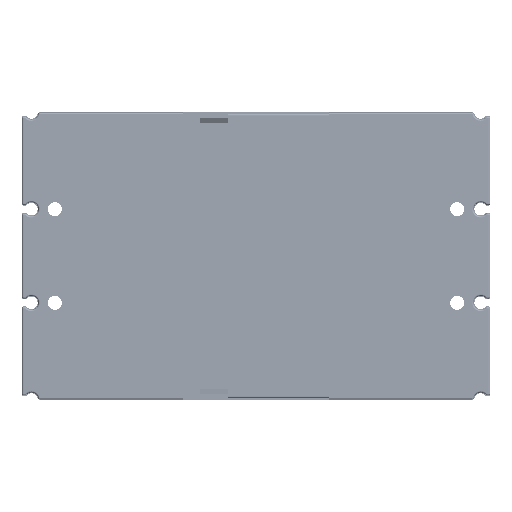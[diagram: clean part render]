
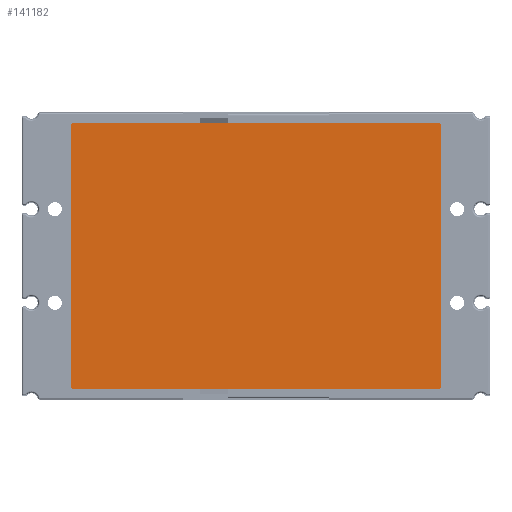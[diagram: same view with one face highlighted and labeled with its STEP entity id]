
A CAD part, front view. The second image highlights one B-rep face of the part: STEP entity #141182.
In plain terms, the highlighted planar face has unit normal (0, -1, 0) as drawn and (0, 0, 1) by its records, which use the part's own axes.
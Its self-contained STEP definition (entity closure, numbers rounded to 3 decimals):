
#140963=CARTESIAN_POINT('',(-42.,0.5,0.8));
#140964=DIRECTION('',(0.,0.,-1.));
#140965=DIRECTION('',(0.,-1.,0.));
#140966=AXIS2_PLACEMENT_3D('',#140963,#140964,#140965);
#140968=DIRECTION('',(0.,1.,0.));
#140969=VECTOR('',#140968,117.4);
#140970=CARTESIAN_POINT('',(-42.5,0.5,0.8));
#140971=LINE('',#140970,#140969);
#140972=CARTESIAN_POINT('',(-42.,117.9,0.8));
#140973=DIRECTION('',(0.,0.,-1.));
#140974=DIRECTION('',(-1.,0.,0.));
#140975=AXIS2_PLACEMENT_3D('',#140972,#140973,#140974);
#140977=DIRECTION('',(1.,0.,0.));
#140978=VECTOR('',#140977,84.);
#140979=CARTESIAN_POINT('',(-42.,118.4,0.8));
#140980=LINE('',#140979,#140978);
#140981=CARTESIAN_POINT('',(42.,117.9,0.8));
#140982=DIRECTION('',(0.,0.,-1.));
#140983=DIRECTION('',(0.,1.,0.));
#140984=AXIS2_PLACEMENT_3D('',#140981,#140982,#140983);
#140986=DIRECTION('',(0.,-1.,0.));
#140987=VECTOR('',#140986,117.4);
#140988=CARTESIAN_POINT('',(42.5,117.9,0.8));
#140989=LINE('',#140988,#140987);
#140990=CARTESIAN_POINT('',(42.,0.5,0.8));
#140991=DIRECTION('',(0.,0.,-1.));
#140992=DIRECTION('',(1.,0.,0.));
#140993=AXIS2_PLACEMENT_3D('',#140990,#140991,#140992);
#140995=DIRECTION('',(-1.,0.,0.));
#140996=VECTOR('',#140995,84.);
#140997=CARTESIAN_POINT('',(42.,0.,0.8));
#140998=LINE('',#140997,#140996);
#141015=CARTESIAN_POINT('',(-42.5,0.5,0.8));
#141016=VERTEX_POINT('',#141015);
#141017=CARTESIAN_POINT('',(-42.,0.,0.8));
#141018=VERTEX_POINT('',#141017);
#141019=CARTESIAN_POINT('',(-42.5,117.9,0.8));
#141020=VERTEX_POINT('',#141019);
#141021=CARTESIAN_POINT('',(-42.,118.4,0.8));
#141022=VERTEX_POINT('',#141021);
#141023=CARTESIAN_POINT('',(42.,118.4,0.8));
#141024=VERTEX_POINT('',#141023);
#141025=CARTESIAN_POINT('',(42.5,117.9,0.8));
#141026=VERTEX_POINT('',#141025);
#141027=CARTESIAN_POINT('',(42.5,0.5,0.8));
#141028=VERTEX_POINT('',#141027);
#141029=CARTESIAN_POINT('',(42.,0.,0.8));
#141030=VERTEX_POINT('',#141029);
#141167=CARTESIAN_POINT('',(0.,0.,0.8));
#141168=DIRECTION('',(0.,0.,1.));
#141169=DIRECTION('',(1.,0.,0.));
#141170=AXIS2_PLACEMENT_3D('',#141167,#141168,#141169);
#141171=PLANE('',#141170);
#141172=ORIENTED_EDGE('',*,*,#141063,.T.);
#141173=ORIENTED_EDGE('',*,*,#141079,.T.);
#141174=ORIENTED_EDGE('',*,*,#141092,.T.);
#141175=ORIENTED_EDGE('',*,*,#141107,.T.);
#141176=ORIENTED_EDGE('',*,*,#141120,.T.);
#141177=ORIENTED_EDGE('',*,*,#141133,.T.);
#141178=ORIENTED_EDGE('',*,*,#141148,.T.);
#141179=ORIENTED_EDGE('',*,*,#141160,.T.);
#141180=EDGE_LOOP('',(#141172,#141173,#141174,#141175,#141176,#141177,#141178,
#141179));
#141181=FACE_OUTER_BOUND('',#141180,.F.);
#141182=ADVANCED_FACE('',(#141181),#141171,.T.);
#140967=CIRCLE('',#140966,0.5);
#140976=CIRCLE('',#140975,0.5);
#140985=CIRCLE('',#140984,0.5);
#140994=CIRCLE('',#140993,0.5);
#141063=EDGE_CURVE('',#141018,#141016,#140967,.T.);
#141079=EDGE_CURVE('',#141016,#141020,#140971,.T.);
#141092=EDGE_CURVE('',#141020,#141022,#140976,.T.);
#141107=EDGE_CURVE('',#141022,#141024,#140980,.T.);
#141120=EDGE_CURVE('',#141024,#141026,#140985,.T.);
#141133=EDGE_CURVE('',#141026,#141028,#140989,.T.);
#141148=EDGE_CURVE('',#141028,#141030,#140994,.T.);
#141160=EDGE_CURVE('',#141030,#141018,#140998,.T.);
